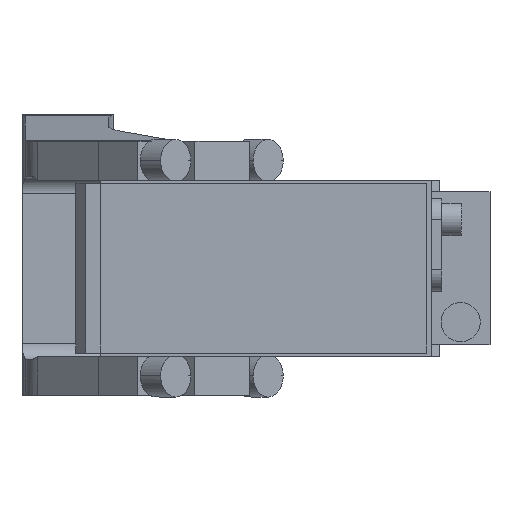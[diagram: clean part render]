
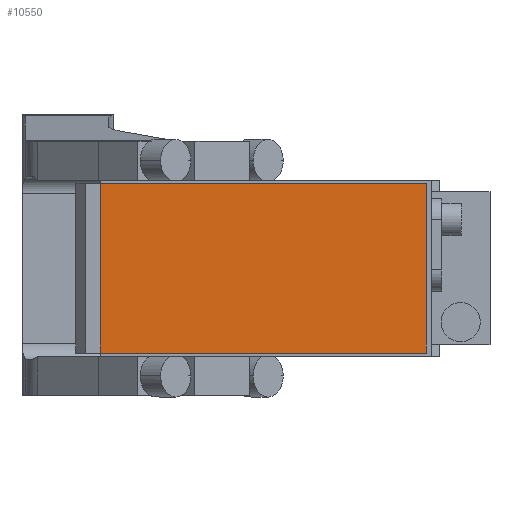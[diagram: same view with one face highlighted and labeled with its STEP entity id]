
A CAD part, front view. The second image highlights one B-rep face of the part: STEP entity #10550.
In plain terms, the highlighted planar face has unit normal (0, -1, 0).
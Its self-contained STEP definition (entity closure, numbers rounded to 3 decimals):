
#393 = DIRECTION ( 'NONE',  ( 0., 0., -1. ) ) ;
#458 = EDGE_LOOP ( 'NONE', ( #4488, #8213, #5095, #9868 ) ) ;
#1061 = DIRECTION ( 'NONE',  ( 0., -1., 0. ) ) ;
#1302 = CARTESIAN_POINT ( 'NONE',  ( -19., -286.5, -26. ) ) ;
#1695 = CARTESIAN_POINT ( 'NONE',  ( -19., -286.5, -26. ) ) ;
#1721 = LINE ( 'NONE', #13693, #2816 ) ;
#2417 = DIRECTION ( 'NONE',  ( 0., 0., 1. ) ) ;
#2761 = VECTOR ( 'NONE', #2417, 1000. ) ;
#2816 = VECTOR ( 'NONE', #5987, 1000. ) ;
#3283 = EDGE_CURVE ( 'NONE', #7464, #9782, #3768, .T. ) ;
#3311 = CARTESIAN_POINT ( 'NONE',  ( 0., -286.5, 0. ) ) ;
#3375 = PLANE ( 'NONE',  #12426 ) ;
#3440 = CARTESIAN_POINT ( 'NONE',  ( 81., -286.5, -26. ) ) ;
#3768 = LINE ( 'NONE', #12055, #7292 ) ;
#4205 = EDGE_CURVE ( 'NONE', #13583, #7464, #1721, .T. ) ;
#4488 = ORIENTED_EDGE ( 'NONE', *, *, #3283, .T. ) ;
#5095 = ORIENTED_EDGE ( 'NONE', *, *, #12197, .T. ) ;
#5987 = DIRECTION ( 'NONE',  ( -1., 0., 0. ) ) ;
#6643 = LINE ( 'NONE', #1302, #8175 ) ;
#7292 = VECTOR ( 'NONE', #393, 1000. ) ;
#7464 = VERTEX_POINT ( 'NONE', #8246 ) ;
#8175 = VECTOR ( 'NONE', #10836, 1000. ) ;
#8213 = ORIENTED_EDGE ( 'NONE', *, *, #12294, .T. ) ;
#8246 = CARTESIAN_POINT ( 'NONE',  ( -19., -286.5, 26. ) ) ;
#8821 = FACE_OUTER_BOUND ( 'NONE', #458, .T. ) ;
#9593 = VERTEX_POINT ( 'NONE', #3440 ) ;
#9782 = VERTEX_POINT ( 'NONE', #1695 ) ;
#9868 = ORIENTED_EDGE ( 'NONE', *, *, #4205, .T. ) ;
#10550 = ADVANCED_FACE ( 'NONE', ( #8821 ), #3375, .T. ) ;
#10836 = DIRECTION ( 'NONE',  ( 1., 0., 0. ) ) ;
#11797 = DIRECTION ( 'NONE',  ( 0., 0., -1. ) ) ;
#12055 = CARTESIAN_POINT ( 'NONE',  ( -19., -286.5, 26. ) ) ;
#12197 = EDGE_CURVE ( 'NONE', #9593, #13583, #13153, .T. ) ;
#12294 = EDGE_CURVE ( 'NONE', #9782, #9593, #6643, .T. ) ;
#12426 = AXIS2_PLACEMENT_3D ( 'NONE', #3311, #1061, #11797 ) ;
#12948 = CARTESIAN_POINT ( 'NONE',  ( 81., -286.5, 26. ) ) ;
#13005 = CARTESIAN_POINT ( 'NONE',  ( 81., -286.5, 26. ) ) ;
#13153 = LINE ( 'NONE', #12948, #2761 ) ;
#13583 = VERTEX_POINT ( 'NONE', #13005 ) ;
#13693 = CARTESIAN_POINT ( 'NONE',  ( -19., -286.5, 26. ) ) ;
